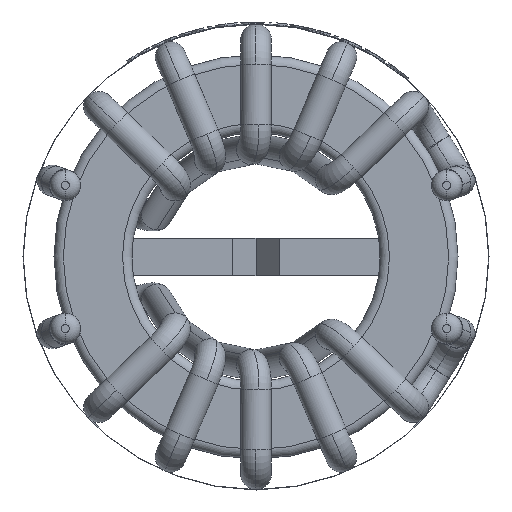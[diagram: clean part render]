
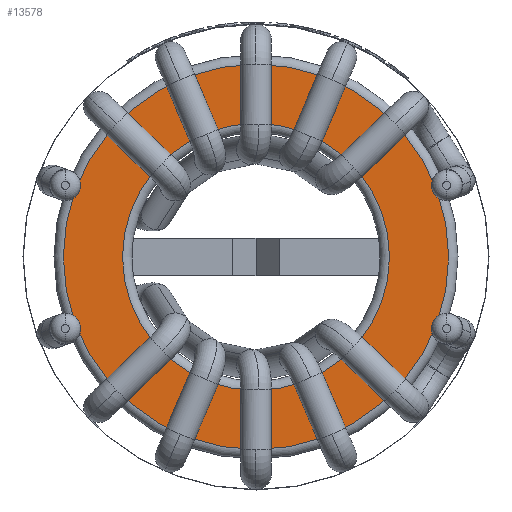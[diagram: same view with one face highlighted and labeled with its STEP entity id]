
A CAD part, front view. The second image highlights one B-rep face of the part: STEP entity #13578.
In plain terms, the highlighted planar face has unit normal (0, -1, 0).
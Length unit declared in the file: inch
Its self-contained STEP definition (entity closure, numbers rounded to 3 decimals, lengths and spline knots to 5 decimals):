
#96 = CARTESIAN_POINT ( 'NONE',  ( 0., -0.19094, 0. ) ) ;
#173 = CIRCLE ( 'NONE', #12235, 0.27953 ) ;
#972 = ORIENTED_EDGE ( 'NONE', *, *, #8385, .T. ) ;
#1172 = ORIENTED_EDGE ( 'NONE', *, *, #12527, .T. ) ;
#1669 = CIRCLE ( 'NONE', #18586, 0.40354 ) ;
#1841 = DIRECTION ( 'NONE',  ( 0., -1., 0. ) ) ;
#1879 = CARTESIAN_POINT ( 'NONE',  ( 0., -0.19094, 0. ) ) ;
#2451 = AXIS2_PLACEMENT_3D ( 'NONE', #1879, #17370, #2489 ) ;
#2489 = DIRECTION ( 'NONE',  ( 0., 0., 1. ) ) ;
#3831 = DIRECTION ( 'NONE',  ( 0., -1., 0. ) ) ;
#4181 = CIRCLE ( 'NONE', #15232, 0.40354 ) ;
#5019 = EDGE_CURVE ( 'NONE', #7993, #16939, #15956, .T. ) ;
#6013 = DIRECTION ( 'NONE',  ( 0., 1., 0. ) ) ;
#6066 = EDGE_LOOP ( 'NONE', ( #972, #6939 ) ) ;
#6939 = ORIENTED_EDGE ( 'NONE', *, *, #5019, .T. ) ;
#7197 = CARTESIAN_POINT ( 'NONE',  ( 0., -0.19094, 0. ) ) ;
#7568 = ORIENTED_EDGE ( 'NONE', *, *, #15588, .T. ) ;
#7993 = VERTEX_POINT ( 'NONE', #13104 ) ;
#8385 = EDGE_CURVE ( 'NONE', #16939, #7993, #173, .T. ) ;
#8834 = CARTESIAN_POINT ( 'NONE',  ( 0., -0.19094, 0.40354 ) ) ;
#9294 = VERTEX_POINT ( 'NONE', #15064 ) ;
#9953 = CARTESIAN_POINT ( 'NONE',  ( 0., -0.19094, 0. ) ) ;
#10123 = AXIS2_PLACEMENT_3D ( 'NONE', #96, #12217, #11604 ) ;
#10924 = EDGE_LOOP ( 'NONE', ( #1172, #7568 ) ) ;
#11484 = CARTESIAN_POINT ( 'NONE',  ( 0., -0.19094, 0.27953 ) ) ;
#11604 = DIRECTION ( 'NONE',  ( 0., 0., 1. ) ) ;
#12217 = DIRECTION ( 'NONE',  ( 0., 1., 0. ) ) ;
#12235 = AXIS2_PLACEMENT_3D ( 'NONE', #9953, #6013, #15742 ) ;
#12527 = EDGE_CURVE ( 'NONE', #17782, #9294, #1669, .T. ) ;
#12755 = DIRECTION ( 'NONE',  ( 0., 0., 1. ) ) ;
#13104 = CARTESIAN_POINT ( 'NONE',  ( 0., -0.19094, -0.27953 ) ) ;
#13578 = ADVANCED_FACE ( 'NONE', ( #18039, #15584 ), #18350, .F. ) ;
#14482 = DIRECTION ( 'NONE',  ( 0., 0., 1. ) ) ;
#15064 = CARTESIAN_POINT ( 'NONE',  ( 0., -0.19094, -0.40354 ) ) ;
#15232 = AXIS2_PLACEMENT_3D ( 'NONE', #18606, #1841, #12755 ) ;
#15584 = FACE_OUTER_BOUND ( 'NONE', #10924, .T. ) ;
#15588 = EDGE_CURVE ( 'NONE', #9294, #17782, #4181, .T. ) ;
#15742 = DIRECTION ( 'NONE',  ( 0., 0., 1. ) ) ;
#15956 = CIRCLE ( 'NONE', #2451, 0.27953 ) ;
#16939 = VERTEX_POINT ( 'NONE', #11484 ) ;
#17370 = DIRECTION ( 'NONE',  ( 0., 1., 0. ) ) ;
#17782 = VERTEX_POINT ( 'NONE', #8834 ) ;
#18039 = FACE_BOUND ( 'NONE', #6066, .T. ) ;
#18350 = PLANE ( 'NONE',  #10123 ) ;
#18586 = AXIS2_PLACEMENT_3D ( 'NONE', #7197, #3831, #14482 ) ;
#18606 = CARTESIAN_POINT ( 'NONE',  ( 0., -0.19094, 0. ) ) ;
